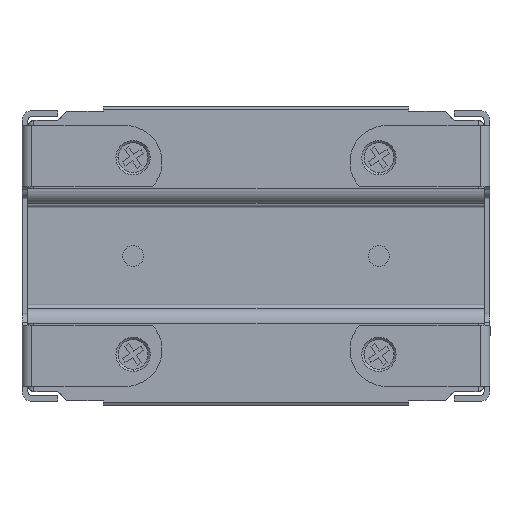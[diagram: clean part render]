
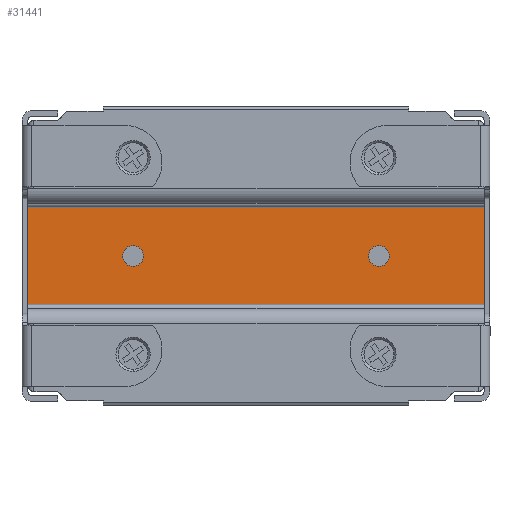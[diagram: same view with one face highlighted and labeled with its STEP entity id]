
A CAD part, front view. The second image highlights one B-rep face of the part: STEP entity #31441.
In plain terms, the highlighted planar face has unit normal (0, -1, 0).
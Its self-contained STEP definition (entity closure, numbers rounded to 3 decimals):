
#1190 = CIRCLE ( 'NONE', #1284, 0.7 ) ;
#1284 = AXIS2_PLACEMENT_3D ( 'NONE', #2013, #2012, #2565 ) ;
#1294 = AXIS2_PLACEMENT_3D ( 'NONE', #1300, #1299, #1298 ) ;
#1295 = CIRCLE ( 'NONE', #1294, 0.7 ) ;
#1296 = CARTESIAN_POINT ( 'NONE',  ( -41.75, 5.5, 0.7 ) ) ;
#1297 = CARTESIAN_POINT ( 'NONE',  ( -41.75, 5.5, -0.7 ) ) ;
#1298 = DIRECTION ( 'NONE',  ( 0., 0., 1. ) ) ;
#1299 = DIRECTION ( 'NONE',  ( 0., 1., 0. ) ) ;
#1300 = CARTESIAN_POINT ( 'NONE',  ( -41.75, 5.5, 0. ) ) ;
#2012 = DIRECTION ( 'NONE',  ( 0., 1., 0. ) ) ;
#2013 = CARTESIAN_POINT ( 'NONE',  ( -58.25, 5.5, 0. ) ) ;
#2563 = CARTESIAN_POINT ( 'NONE',  ( -58.25, 5.5, 0.7 ) ) ;
#2564 = CARTESIAN_POINT ( 'NONE',  ( -58.25, 5.5, -0.7 ) ) ;
#2565 = DIRECTION ( 'NONE',  ( 0., 0., 1. ) ) ;
#2876 = CARTESIAN_POINT ( 'NONE',  ( -34.7, 5.5, -4.3 ) ) ;
#2885 = DIRECTION ( 'NONE',  ( 0., 0., 1. ) ) ;
#2887 = VECTOR ( 'NONE', #2885, 1000. ) ;
#2888 = CARTESIAN_POINT ( 'NONE',  ( -34.7, 5.5, -4.5 ) ) ;
#2895 = LINE ( 'NONE', #2888, #2887 ) ;
#2896 = CARTESIAN_POINT ( 'NONE',  ( -34.7, 5.5, 4.3 ) ) ;
#5888 = DIRECTION ( 'NONE',  ( 0., 1., 0. ) ) ;
#5987 = DIRECTION ( 'NONE',  ( 0., 0., 1. ) ) ;
#7825 = DIRECTION ( 'NONE',  ( -1., 0., 0. ) ) ;
#7826 = VECTOR ( 'NONE', #7825, 1000. ) ;
#7827 = CARTESIAN_POINT ( 'NONE',  ( -65.3, 5.5, 4.3 ) ) ;
#7828 = LINE ( 'NONE', #7827, #7826 ) ;
#7829 = DIRECTION ( 'NONE',  ( 1., 0., 0. ) ) ;
#7830 = VECTOR ( 'NONE', #7829, 1000. ) ;
#7831 = CARTESIAN_POINT ( 'NONE',  ( -34.7, 5.5, -4.3 ) ) ;
#7832 = LINE ( 'NONE', #7831, #7830 ) ;
#15546 = CARTESIAN_POINT ( 'NONE',  ( -65.3, 5.5, 4.3 ) ) ;
#15551 = DIRECTION ( 'NONE',  ( 0., 0., -1. ) ) ;
#15552 = VECTOR ( 'NONE', #15551, 1000. ) ;
#15553 = CARTESIAN_POINT ( 'NONE',  ( -65.3, 5.5, -4.5 ) ) ;
#15554 = LINE ( 'NONE', #15553, #15552 ) ;
#15556 = CARTESIAN_POINT ( 'NONE',  ( -65.3, 5.5, -4.3 ) ) ;
#24962 = CIRCLE ( 'NONE', #25197, 0.7 ) ;
#25197 = AXIS2_PLACEMENT_3D ( 'NONE', #25484, #5888, #5987 ) ;
#25434 = FACE_BOUND ( 'NONE', #31452, .T. ) ;
#25435 = FACE_BOUND ( 'NONE', #31444, .T. ) ;
#25476 = CARTESIAN_POINT ( 'NONE',  ( -58.25, 5.5, 0. ) ) ;
#25478 = AXIS2_PLACEMENT_3D ( 'NONE', #25483, #25482, #25481 ) ;
#25479 = PLANE ( 'NONE',  #25478 ) ;
#25480 = FACE_OUTER_BOUND ( 'NONE', #32054, .T. ) ;
#25481 = DIRECTION ( 'NONE',  ( 0., 0., 1. ) ) ;
#25482 = DIRECTION ( 'NONE',  ( 0., 1., 0. ) ) ;
#25483 = CARTESIAN_POINT ( 'NONE',  ( -80., 5.5, 4.5 ) ) ;
#25484 = CARTESIAN_POINT ( 'NONE',  ( -41.75, 5.5, 0. ) ) ;
#25490 = DIRECTION ( 'NONE',  ( 0., 0., 1. ) ) ;
#25491 = DIRECTION ( 'NONE',  ( 0., 1., 0. ) ) ;
#25492 = AXIS2_PLACEMENT_3D ( 'NONE', #25476, #25491, #25490 ) ;
#25502 = CIRCLE ( 'NONE', #25492, 0.7 ) ;
#27408 = EDGE_CURVE ( 'NONE', #27409, #27411, #1190, .T. ) ;
#27409 = VERTEX_POINT ( 'NONE', #2564 ) ;
#27411 = VERTEX_POINT ( 'NONE', #2563 ) ;
#27424 = EDGE_CURVE ( 'NONE', #27426, #27428, #1295, .T. ) ;
#27426 = VERTEX_POINT ( 'NONE', #1297 ) ;
#27428 = VERTEX_POINT ( 'NONE', #1296 ) ;
#28434 = VERTEX_POINT ( 'NONE', #2896 ) ;
#28440 = EDGE_CURVE ( 'NONE', #28446, #28434, #2895, .T. ) ;
#28446 = VERTEX_POINT ( 'NONE', #2876 ) ;
#31441 = ADVANCED_FACE ( 'NONE', ( #25435, #25434, #25480 ), #25479, .F. ) ;
#31444 = EDGE_LOOP ( 'NONE', ( #31446, #31450 ) ) ;
#31446 = ORIENTED_EDGE ( 'NONE', *, *, #31448, .T. ) ;
#31448 = EDGE_CURVE ( 'NONE', #27411, #27409, #25502, .T. ) ;
#31450 = ORIENTED_EDGE ( 'NONE', *, *, #27408, .T. ) ;
#31452 = EDGE_LOOP ( 'NONE', ( #31453, #31458 ) ) ;
#31453 = ORIENTED_EDGE ( 'NONE', *, *, #31455, .T. ) ;
#31455 = EDGE_CURVE ( 'NONE', #27428, #27426, #24962, .T. ) ;
#31458 = ORIENTED_EDGE ( 'NONE', *, *, #27424, .T. ) ;
#32054 = EDGE_LOOP ( 'NONE', ( #32089, #32090, #32092, #32093 ) ) ;
#32089 = ORIENTED_EDGE ( 'NONE', *, *, #32919, .T. ) ;
#32090 = ORIENTED_EDGE ( 'NONE', *, *, #32091, .T. ) ;
#32091 = EDGE_CURVE ( 'NONE', #32915, #28446, #7832, .T. ) ;
#32092 = ORIENTED_EDGE ( 'NONE', *, *, #28440, .T. ) ;
#32093 = ORIENTED_EDGE ( 'NONE', *, *, #32094, .T. ) ;
#32094 = EDGE_CURVE ( 'NONE', #28434, #32921, #7828, .T. ) ;
#32915 = VERTEX_POINT ( 'NONE', #15556 ) ;
#32919 = EDGE_CURVE ( 'NONE', #32921, #32915, #15554, .T. ) ;
#32921 = VERTEX_POINT ( 'NONE', #15546 ) ;
